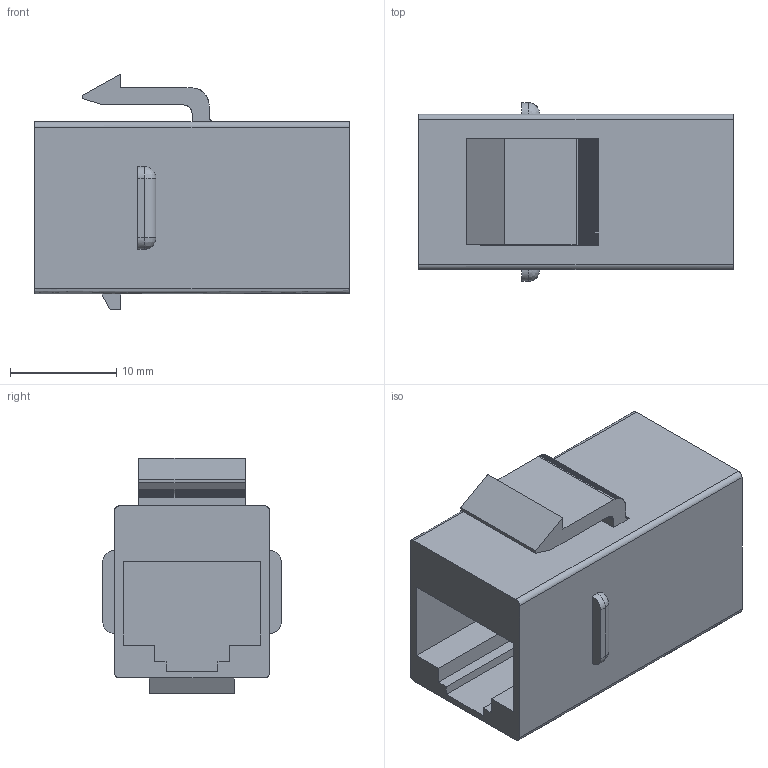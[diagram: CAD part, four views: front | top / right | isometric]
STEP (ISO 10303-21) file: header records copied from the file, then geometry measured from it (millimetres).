
FILE_DESCRIPTION( ('This file contains a STEP AP42 implementation' ,'as created by ZW3D STEP Interface translator.') ,'2;1' );
FILE_NAME( 'TB-033_3013AJXQF6AWH_SD.stp' ,'26 330.134526', (''), ('ZWCAD Software Co.'), 'Version 1.0', 'ZW3D to STEP translator', '' );
FILE_SCHEMA(('AUTOMOTIVE_DESIGN'));
Length unit declared in the file: millimetre
Products named in the file (2): 0; TB-033_3013AJXQF6AWH_SD
Bounding box: 29.6 x 16.79 x 22.2 mm (x, y, z)
Volume: 4902.4 mm3; surface area: 3561.7 mm2
Topology: 1 solids, 1 shells, 147 faces, 417 edges, 274 vertices
Faces by surface type: bspline 147
Entity records: 6629 total; most frequent: CARTESIAN_POINT 3935, ORIENTED_EDGE 826, EDGE_CURVE 413, B_SPLINE_CURVE_WITH_KNOTS 411, VERTEX_POINT 274, EDGE_LOOP 153, FACE_OUTER_BOUND 147, ADVANCED_FACE 147
